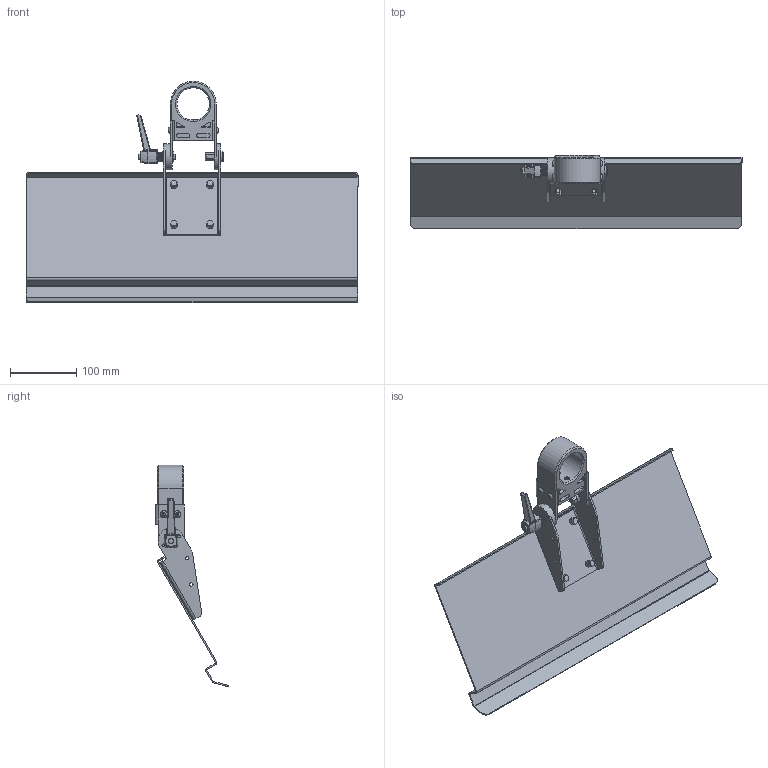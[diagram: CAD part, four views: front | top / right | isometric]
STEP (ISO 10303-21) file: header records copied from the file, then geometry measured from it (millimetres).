
FILE_DESCRIPTION (( 'STEP AP203' ), '1' );
FILE_NAME ('KLV.SC.K.2.STEP', '2024-10-18T11:09:28', ( '' ), ( '' ), 'SwSTEP 2.0', 'SolidWorks 2022', '' );
FILE_SCHEMA (( 'CONFIG_CONTROL_DESIGN' ));
Products named in the file (1): KLV.SC.K.2
Bounding box: 500 x 110.94 x 333.93 mm (x, y, z)
Volume: 488647.8 mm3; surface area: 340621.3 mm2
Topology: 1 solids, 31 shells, 1785 faces, 5031 edges, 3247 vertices
Faces by surface type: plane 1205, cylinder 397, cone 96, sphere 30, torus 29, bspline 28
Full cylindrical faces by diameter (mm): 4.2 x2, 5 x6, 6.8 x23, 6.952 x1, 7.402 x1, 7.8 x8, 8 x2, 9.8 x1, 10.5 x8, 11 x4, 11.6 x4, 15 x1, 39 x2, 49 x1
Entity records: 57600 total; most frequent: CARTESIAN_POINT 12299, ORIENTED_EDGE 9476, DIRECTION 9254, EDGE_CURVE 4738, LINE 3282, VECTOR 3282, VERTEX_POINT 3127, AXIS2_PLACEMENT_3D 2986
